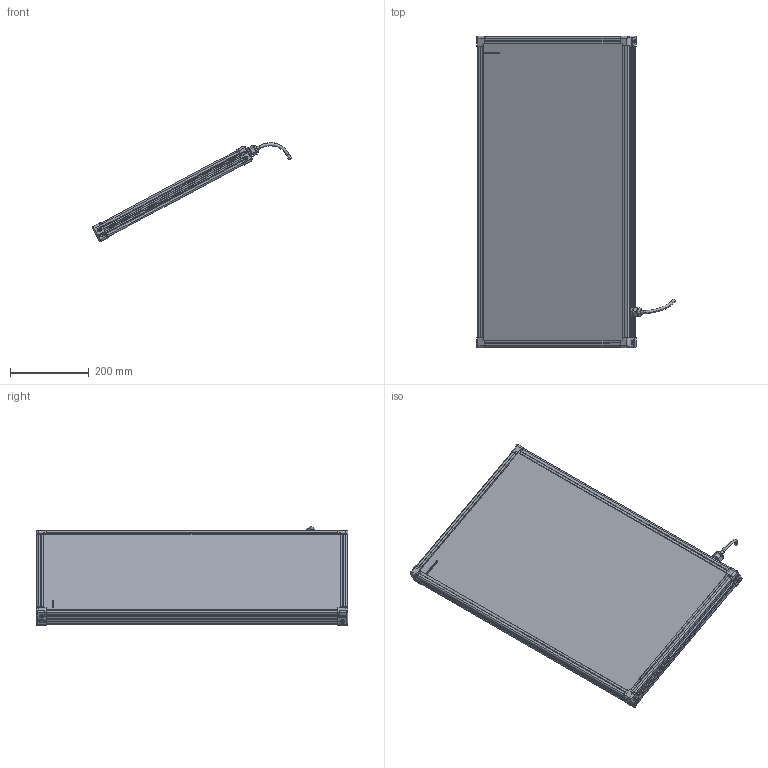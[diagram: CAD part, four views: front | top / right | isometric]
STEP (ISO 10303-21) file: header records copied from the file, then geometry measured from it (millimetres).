
FILE_DESCRIPTION (( 'STEP AP214' ), '1' );
FILE_NAME ('EFFI-BL-400-750-ZZZ.STEP', '2021-06-10T09:06:13', ( '' ), ( '' ), 'SwSTEP 2.0', 'SolidWorks 2021', '' );
FILE_SCHEMA (( 'AUTOMOTIVE_DESIGN' ));
Length unit declared in the file: millimetre
Products named in the file (9): profile Y_PERCE; Pièce13^EFFI-BL-XXX-YYY-ZZZ (1 connecteur) M12POWER; profile X_PERCE; petite joue; 000629; EFFI-BL-400-750-ZZZ; petite joue + vis; M12 power_AVEC CABLE D8.1
Assembly tree (13 placements, depth 3):
  EFFI-BL-400-750-ZZZ
    profile X_PERCE  x2
    profile Y_PERCE
    profile Y_PERCE
    Pièce13^EFFI-BL-XXX-YYY-ZZZ (1 connecteur) M12POWER
    petite joue + vis  x4
      petite joue
      000629
    M12 power_AVEC CABLE D8.1
Bounding box: 503.1 x 789 x 249.72 mm (x, y, z)
Volume: 12051386.9 mm3; surface area: 1050790.5 mm2
Topology: 17 solids, 20 shells, 3578 faces, 9609 edges, 6361 vertices
Faces by surface type: plane 2380, bspline 591, cylinder 583, cone 20, torus 4
Entity records: 49711 total; most frequent: CARTESIAN_POINT 21554, ORIENTED_EDGE 6036, DIRECTION 4529, EDGE_CURVE 3020, LINE 2261, VECTOR 2261, VERTEX_POINT 2008, EDGE_LOOP 1222
